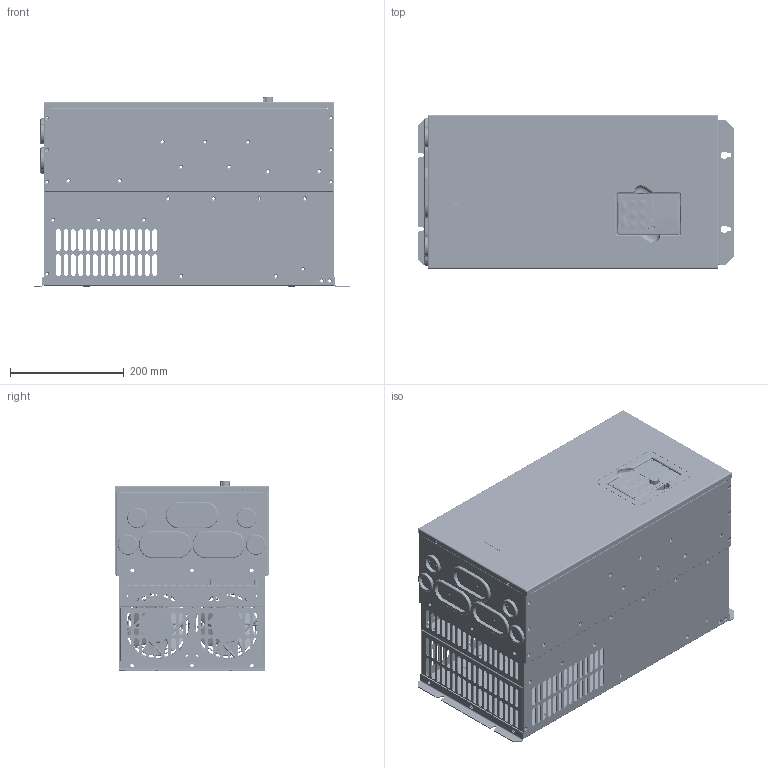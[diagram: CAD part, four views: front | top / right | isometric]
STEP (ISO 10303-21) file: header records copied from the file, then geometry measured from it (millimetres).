
FILE_DESCRIPTION (( 'STEP AP203' ), '1' );
FILE_NAME ('UMI-[0370~0550]EU-B5_UMI-[0185~0300]CU-B5.STEP', '2020-03-29T15:52:13', ( '' ), ( '' ), 'SwSTEP 2.0', 'SolidWorks 2017', '' );
FILE_SCHEMA (( 'CONFIG_CONTROL_DESIGN' ));
Length unit declared in the file: millimetre
Products named in the file (47): PRT-008; PRT-006; PRT-0015; PRT-003; PRT-0011; PRT-0010; PRT-002; PRT-0013; PRT-001; ASM_001; PRT-0016; PRT-009; PRT-004; PRT-0018; PRT-005; PRT-007; PRT-0014; PRT-0019; PRT-0017; PRT-0012; UMI-[0370~0550]EU-B5_UMI-[0185~0300]CU-B5
Assembly tree (27 placements, depth 3):
  PRT-008
  PRT-003
  PRT-002
  PRT-0011
  PRT-0013
Bounding box: 555 x 270.01 x 332.6 mm (x, y, z)
Volume: 1155864.4 mm3; surface area: 2378693 mm2
Topology: 67 solids, 79 shells, 4983 faces, 13913 edges, 9034 vertices
Faces by surface type: plane 2175, cylinder 1918, bspline 681, cone 197, torus 12
Entity records: 192941 total; most frequent: CARTESIAN_POINT 77059, ORIENTED_EDGE 24750, DIRECTION 20819, EDGE_CURVE 12459, VERTEX_POINT 8157, AXIS2_PLACEMENT_3D 7138, VECTOR 6543, LINE 6543
